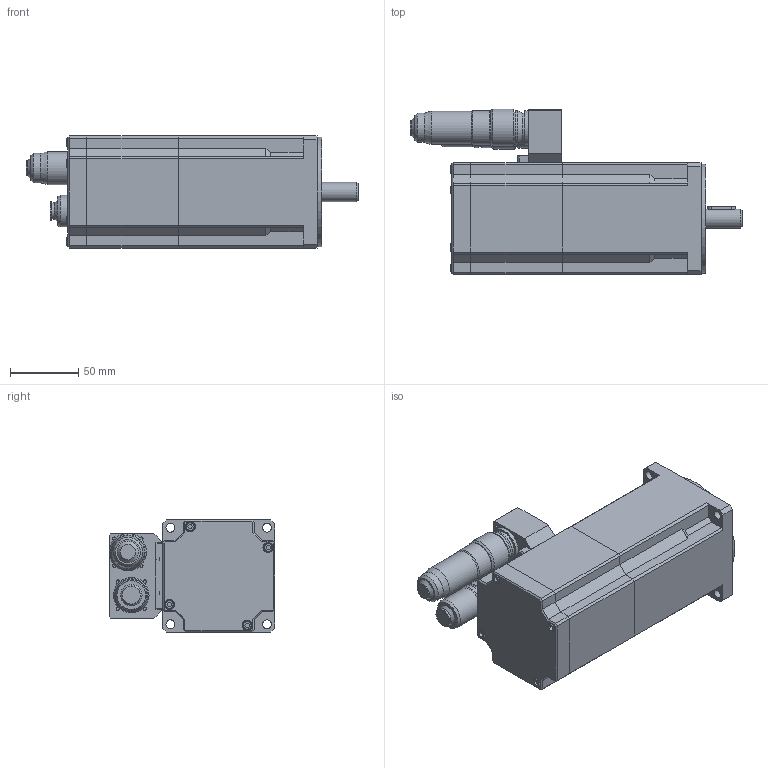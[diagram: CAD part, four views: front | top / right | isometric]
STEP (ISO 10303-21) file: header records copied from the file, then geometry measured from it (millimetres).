
FILE_DESCRIPTION((''),'2;1');
FILE_NAME('I:\Disegni_Meccanici_MOTORI_(3D)\SMB\82\stp\SME82-03-8-14-2ID-A6-A7-3D.stp','2009-07-22T13:40:48',('fm025178'),(''),'Autodesk Inventor 2008','Autodesk Inventor 2008','');
FILE_SCHEMA(('AUTOMOTIVE_DESIGN { 1 0 10303 214 1 1 1 1 }'));
Length unit declared in the file: millimetre
Products named in the file (26): SME82-03-8-14-2ID-A6-A7-3D; SME82-03-8-14-2ID-A6-A7-3D1; SME82-03-8-14-2ID-A6-A7-3D2; SME82-03-8-14-2ID-A6-A7-3D3; SME82-03-8-14-2ID-A6-A7-3D4; SME82-03-8-14-2ID-A6-A7-3D5; SME82-03-8-14-2ID-A6-A7-3D6; SME82-03-8-14-2ID-A6-A7-3D7; SME82-03-8-14-2ID-A6-A7-3D8; SME82-03-8-14-2ID-A6-A7-3D9; SME82-03-8-14-2ID-A6-A7-3D10; SME82-03-8-14-2ID-A6-A7-3D11; SME82-03-8-14-2ID-A6-A7-3D12; SME82-03-8-14-2ID-A6-A7-3D13; SME82-03-8-14-2ID-A6-A7-3D14; SME82-03-8-14-2ID-A6-A7-3D15; SME82-03-8-14-2ID-A6-A7-3D16; SME82-03-8-14-2ID-A6-A7-3D17; SME82-03-8-14-2ID-A6-A7-3D18; SME82-03-8-14-2ID-A6-A7-3D19; SME82-03-8-14-2ID-A6-A7-3D20; SME82-03-8-14-2ID-A6-A7-3D21; SME82-03-8-14-2ID-A6-A7-3D22; SME82-03-8-14-2ID-A6-A7-3D23; SME82-03-8-14-2ID-A6-A7-3D24; SME82-03-8-14-2ID-A6-A7-3D25
Assembly tree (25 placements, depth 2):
  SME82-03-8-14-2ID-A6-A7-3D
    SME82-03-8-14-2ID-A6-A7-3D1
    SME82-03-8-14-2ID-A6-A7-3D2
    SME82-03-8-14-2ID-A6-A7-3D3
    SME82-03-8-14-2ID-A6-A7-3D4
    SME82-03-8-14-2ID-A6-A7-3D5
    SME82-03-8-14-2ID-A6-A7-3D6
    SME82-03-8-14-2ID-A6-A7-3D7
    SME82-03-8-14-2ID-A6-A7-3D8
    SME82-03-8-14-2ID-A6-A7-3D9
    SME82-03-8-14-2ID-A6-A7-3D10
    SME82-03-8-14-2ID-A6-A7-3D11
    SME82-03-8-14-2ID-A6-A7-3D12
    SME82-03-8-14-2ID-A6-A7-3D13
    SME82-03-8-14-2ID-A6-A7-3D14
    SME82-03-8-14-2ID-A6-A7-3D15
    SME82-03-8-14-2ID-A6-A7-3D16
    SME82-03-8-14-2ID-A6-A7-3D17
    SME82-03-8-14-2ID-A6-A7-3D18
    SME82-03-8-14-2ID-A6-A7-3D19
    SME82-03-8-14-2ID-A6-A7-3D20
    SME82-03-8-14-2ID-A6-A7-3D21
    SME82-03-8-14-2ID-A6-A7-3D22
    SME82-03-8-14-2ID-A6-A7-3D23
    SME82-03-8-14-2ID-A6-A7-3D24
    SME82-03-8-14-2ID-A6-A7-3D25
Bounding box: 243 x 121.1 x 82 mm (x, y, z)
Volume: 582394.8 mm3; surface area: 218498.7 mm2
Topology: 26 solids, 30 shells, 793 faces, 1747 edges, 1069 vertices
Faces by surface type: plane 357, bspline 171, cylinder 164, cone 85, torus 16
Full cylindrical faces by diameter (mm): 2 x2, 2.387 x8, 3 x8, 3.5 x4, 4 x15, 4.019 x1, 4.5 x4, 5 x9, 5.3 x1, 5.5 x7, 6 x4, 6.5 x4, 7 x4, 7.5 x4, 8.5 x4, 11.207 x1, 11.977 x1, 13.472 x1, 14 x1, 17 x1, 19.8 x1, 20 x2, 20.5 x1, 21 x1, 21.5 x1, 21.522 x1, 22.5 x1, 23 x3, 23.5 x1, 24 x2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
Entity records: 32577 total; most frequent: CARTESIAN_POINT 16188, DIRECTION 3087, ORIENTED_EDGE 2876, EDGE_CURVE 1438, AXIS2_PLACEMENT_3D 1248, EDGE_LOOP 1196, VERTEX_POINT 1032, FACE_OUTER_BOUND 793
